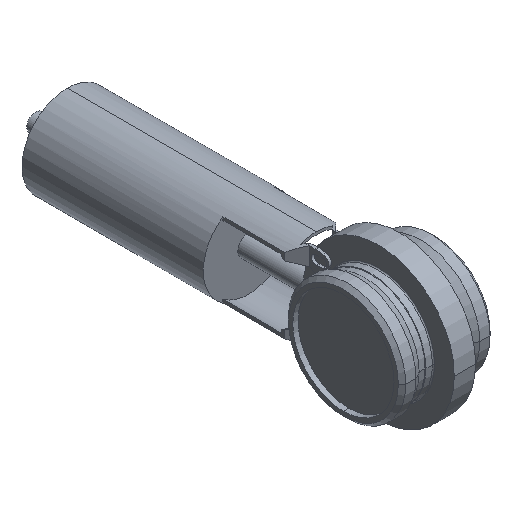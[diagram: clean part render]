
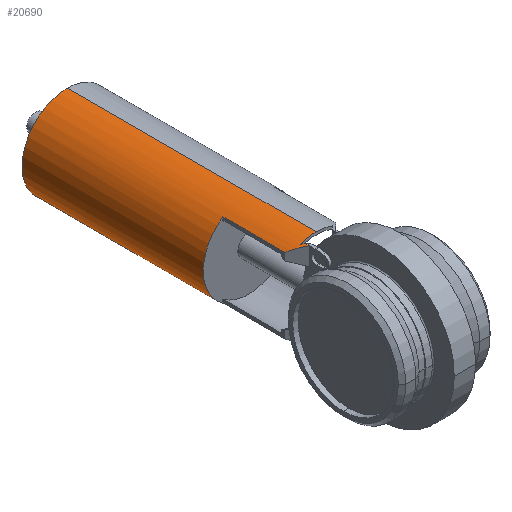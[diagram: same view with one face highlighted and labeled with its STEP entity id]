
A CAD part, isometric view. The second image highlights one B-rep face of the part: STEP entity #20690.
In plain terms, the highlighted cylindrical face has radius 42.5 mm (diameter 85 mm), a partial arc.
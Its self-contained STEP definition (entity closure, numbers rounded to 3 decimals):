
#14570=CARTESIAN_POINT('',(-231.595,169.806,
35.075));
#14580=VERTEX_POINT('',#14570);
#14610=CARTESIAN_POINT('',(-255.595,169.806,
0.));
#14620=DIRECTION('',(0.,-1.,0.));
#14630=DIRECTION('',(0.,0.,-1.));
#14640=AXIS2_PLACEMENT_3D('',#14610,#14620,#14630);
#14650=CIRCLE('',#14640,42.5);
#14660=CARTESIAN_POINT('',(-231.595,169.806,
-35.075));
#14670=VERTEX_POINT('',#14660);
#14680=EDGE_CURVE('',#14670,#14580,#14650,.T.);
#15380=CARTESIAN_POINT('',(-243.095,103.848,
-40.62));
#15390=VERTEX_POINT('',#15380);
#15420=CARTESIAN_POINT('',(-255.595,91.348,
0.));
#15430=DIRECTION('',(-0.707,0.707,0.));
#15440=DIRECTION('',(0.707,0.707,0.));
#15450=AXIS2_PLACEMENT_3D('',#15420,#15430,#15440);
#15460=ELLIPSE('',#15450,60.104,42.5);
#15470=CARTESIAN_POINT('',(-240.537,106.406,
-39.743));
#15480=VERTEX_POINT('',#15470);
#15490=EDGE_CURVE('',#15480,#15390,#15460,.T.);
#16070=CARTESIAN_POINT('',(-243.095,366.667,
-40.62));
#16080=DIRECTION('',(0.,-1.,0.));
#16090=VECTOR('',#16080,1.);
#16100=LINE('',#16070,#16090);
#16110=CARTESIAN_POINT('',(-243.095,100.312,
-40.62));
#16120=VERTEX_POINT('',#16110);
#16150=EDGE_CURVE('',#15390,#16120,#16100,.T.);
#16320=CARTESIAN_POINT('',(-231.595,111.812,
-35.075));
#16330=VERTEX_POINT('',#16320);
#16600=CARTESIAN_POINT('',(-231.595,366.667,
-35.075));
#16610=DIRECTION('',(0.,-1.,0.));
#16620=VECTOR('',#16610,1.);
#16630=LINE('',#16600,#16620);
#16640=EDGE_CURVE('',#14670,#16330,#16630,.T.);
#18760=CARTESIAN_POINT('',(-255.595,87.812,
0.));
#18770=DIRECTION('',(0.707,-0.707,-0.));
#18780=DIRECTION('',(-0.707,-0.707,0.));
#18790=AXIS2_PLACEMENT_3D('',#18760,#18770,#18780);
#18800=ELLIPSE('',#18790,60.104,42.5);
#18810=EDGE_CURVE('',#16120,#16330,#18800,.T.);
#19560=CARTESIAN_POINT('',(-255.595,169.806,
0.));
#19570=DIRECTION('',(0.,-1.,0.));
#19580=DIRECTION('',(0.,0.,1.));
#19590=AXIS2_PLACEMENT_3D('',#19560,#19570,#19580);
#19600=CYLINDRICAL_SURFACE('',#19590,42.5);
#19610=ORIENTED_EDGE('',*,*,#15490,.F.);
#19620=ORIENTED_EDGE('',*,*,#16150,.F.);
#19630=ORIENTED_EDGE('',*,*,#18810,.F.);
#19640=ORIENTED_EDGE('',*,*,#16640,.T.);
#19650=ORIENTED_EDGE('',*,*,#14680,.F.);
#19660=CARTESIAN_POINT('',(-231.595,366.667,
35.075));
#19670=DIRECTION('',(0.,-1.,0.));
#19680=VECTOR('',#19670,1.);
#19690=LINE('',#19660,#19680);
#19700=CARTESIAN_POINT('',(-231.595,111.812,
35.075));
#19710=VERTEX_POINT('',#19700);
#19720=EDGE_CURVE('',#14580,#19710,#19690,.T.);
#19730=ORIENTED_EDGE('',*,*,#19720,.F.);
#19740=CARTESIAN_POINT('',(-255.595,87.812,
0.));
#19750=DIRECTION('',(-0.707,0.707,0.));
#19760=DIRECTION('',(-0.707,-0.707,0.));
#19770=AXIS2_PLACEMENT_3D('',#19740,#19750,#19760);
#19780=ELLIPSE('',#19770,60.104,42.5);
#19790=CARTESIAN_POINT('',(-243.095,100.312,
40.62));
#19800=VERTEX_POINT('',#19790);
#19810=EDGE_CURVE('',#19800,#19710,#19780,.T.);
#19820=ORIENTED_EDGE('',*,*,#19810,.T.);
#19830=CARTESIAN_POINT('',(-243.095,366.667,
40.62));
#19840=DIRECTION('',(0.,-1.,0.));
#19850=VECTOR('',#19840,1.);
#19860=LINE('',#19830,#19850);
#19870=CARTESIAN_POINT('',(-243.095,93.857,
40.62));
#19880=VERTEX_POINT('',#19870);
#19890=EDGE_CURVE('',#19800,#19880,#19860,.T.);
#19900=ORIENTED_EDGE('',*,*,#19890,.F.);
#19910=CARTESIAN_POINT('',(-255.595,-262.662,
0.));
#19920=DIRECTION('',(-0.,-0.113,0.994));
#19930=DIRECTION('',(0.,0.994,0.113));
#19940=AXIS2_PLACEMENT_3D('',#19910,#19920,#19930);
#19950=ELLIPSE('',#19940,375.431,42.5);
#19960=CARTESIAN_POINT('',(-244.947,98.46,
41.145));
#19970=VERTEX_POINT('',#19960);
#19980=EDGE_CURVE('',#19880,#19970,#19950,.T.);
#19990=ORIENTED_EDGE('',*,*,#19980,.F.);
#20000=CARTESIAN_POINT('',(-255.595,87.812,
0.));
#20010=DIRECTION('',(0.707,-0.707,-0.));
#20020=DIRECTION('',(0.707,0.707,0.));
#20030=AXIS2_PLACEMENT_3D('',#20000,#20010,#20020);
#20040=ELLIPSE('',#20030,60.104,42.5);
#20050=CARTESIAN_POINT('',(-245.595,97.812,
41.307));
#20060=VERTEX_POINT('',#20050);
#20070=EDGE_CURVE('',#19970,#20060,#20040,.T.);
#20080=ORIENTED_EDGE('',*,*,#20070,.F.);
#20090=CARTESIAN_POINT('',(-245.595,366.667,
41.307));
#20100=DIRECTION('',(0.,-1.,0.));
#20110=VECTOR('',#20100,1.);
#20120=LINE('',#20090,#20110);
#20130=CARTESIAN_POINT('',(-245.595,101.348,
41.307));
#20140=VERTEX_POINT('',#20130);
#20150=EDGE_CURVE('',#20140,#20060,#20120,.T.);
#20160=ORIENTED_EDGE('',*,*,#20150,.T.);
#20170=CARTESIAN_POINT('',(-255.595,91.348,
0.));
#20180=DIRECTION('',(-0.707,0.707,0.));
#20190=DIRECTION('',(-0.707,-0.707,0.));
#20200=AXIS2_PLACEMENT_3D('',#20170,#20180,#20190);
#20210=ELLIPSE('',#20200,60.104,42.5);
#20220=CARTESIAN_POINT('',(-240.537,106.406,
39.743));
#20230=VERTEX_POINT('',#20220);
#20240=EDGE_CURVE('',#20140,#20230,#20210,.T.);
#20250=ORIENTED_EDGE('',*,*,#20240,.F.);
#20260=CARTESIAN_POINT('',(-255.595,106.406,
0.));
#20270=DIRECTION('',(0.,-1.,0.));
#20280=DIRECTION('',(0.,0.,1.));
#20290=AXIS2_PLACEMENT_3D('',#20260,#20270,#20280);
#20300=CIRCLE('',#20290,42.5);
#20310=CARTESIAN_POINT('',(-255.595,106.406,42.5));
#20320=VERTEX_POINT('',#20310);
#20330=EDGE_CURVE('',#20230,#20320,#20300,.T.);
#20340=ORIENTED_EDGE('',*,*,#20330,.F.);
#20350=CARTESIAN_POINT('',(-255.595,169.806,42.5));
#20360=DIRECTION('',(0.,-1.,0.));
#20370=VECTOR('',#20360,1.);
#20380=LINE('',#20350,#20370);
#20390=CARTESIAN_POINT('',(-255.595,339.806,42.5));
#20400=VERTEX_POINT('',#20390);
#20410=EDGE_CURVE('',#20400,#20320,#20380,.T.);
#20420=ORIENTED_EDGE('',*,*,#20410,.T.);
#20430=CARTESIAN_POINT('',(-255.595,339.806,
0.));
#20440=DIRECTION('',(0.,-1.,0.));
#20450=DIRECTION('',(0.,0.,1.));
#20460=AXIS2_PLACEMENT_3D('',#20430,#20440,#20450);
#20470=CIRCLE('',#20460,42.5);
#20480=CARTESIAN_POINT('',(-255.595,339.806,-42.5));
#20490=VERTEX_POINT('',#20480);
#20500=EDGE_CURVE('',#20490,#20400,#20470,.T.);
#20510=ORIENTED_EDGE('',*,*,#20500,.T.);
#20520=CARTESIAN_POINT('',(-255.595,169.806,-42.5));
#20530=DIRECTION('',(0.,-1.,0.));
#20540=VECTOR('',#20530,1.);
#20550=LINE('',#20520,#20540);
#20560=CARTESIAN_POINT('',(-255.595,106.406,-42.5));
#20570=VERTEX_POINT('',#20560);
#20580=EDGE_CURVE('',#20490,#20570,#20550,.T.);
#20590=ORIENTED_EDGE('',*,*,#20580,.F.);
#20600=CARTESIAN_POINT('',(-255.595,106.406,
0.));
#20610=DIRECTION('',(0.,-1.,0.));
#20620=DIRECTION('',(0.,0.,-1.));
#20630=AXIS2_PLACEMENT_3D('',#20600,#20610,#20620);
#20640=CIRCLE('',#20630,42.5);
#20650=EDGE_CURVE('',#20570,#15480,#20640,.T.);
#20660=ORIENTED_EDGE('',*,*,#20650,.F.);
#20670=EDGE_LOOP('',(#20660,#20590,#20510,#20420,#20340,#20250,#20160,
#20080,#19990,#19900,#19820,#19730,#19650,#19640,#19630,#19620,#19610));
#20680=FACE_OUTER_BOUND('',#20670,.T.);
#20690=ADVANCED_FACE('',(#20680),#19600,.T.);
